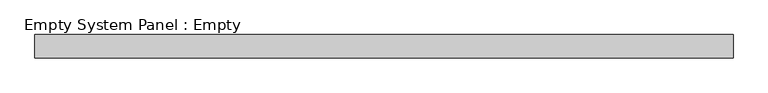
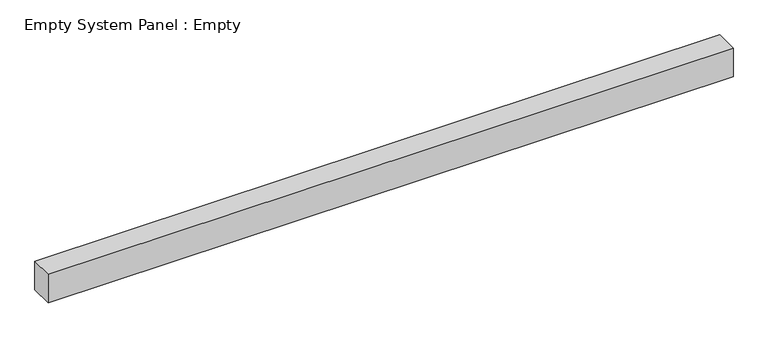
"""IFC4 building model written with IfcOpenShell, lengths in millimetres: plate geometry, Empty System Panel : Empty."""

from ifc_helpers import new_model, si_unit, origin, origin_with_axes, place, context, project, spatial, polyline, outline, extrude, source, transform, mapped, element, save


def empty_system_panel_empty_095e2861(model_context):
    return source(origin(), model_context, "Body", "SweptSolid", [
        extrude(outline(polyline([(1500.0, -50.0), (-1500.0, -50.0), (-1500.0, 50.0), (1500.0, 50.0), (1500.0, -50.0)])), origin_with_axes(), (0.0, 0.0, 1.0), 132.5),
    ])


if __name__ == "__main__":
    model = new_model("IFC4")
    model_context = context("Model", 3, world=origin())
    ifc_project = project(units=[si_unit("LENGTHUNIT", "METRE", prefix="MILLI")], contexts=[model_context])
    site = spatial("IfcSite", under=ifc_project)
    building = spatial("IfcBuilding", under=site)
    placement = place(None, origin())
    empty_system_panel_empty_shape = empty_system_panel_empty_095e2861(model_context)
    element("IfcPlate", 1, ObjectType="Empty System Panel : Empty", at=placement, inside=building, context=model_context, shape_type="MappedRepresentation", body=[
        mapped(empty_system_panel_empty_shape, transform((0.0, 0.0, 0.0), x_axis=(1.0, 0.0, 0.0), y_axis=(0.0, 1.0, 0.0), z_axis=(0.0, 0.0, 1.0))),
    ])
    save(model, "model.ifc")
